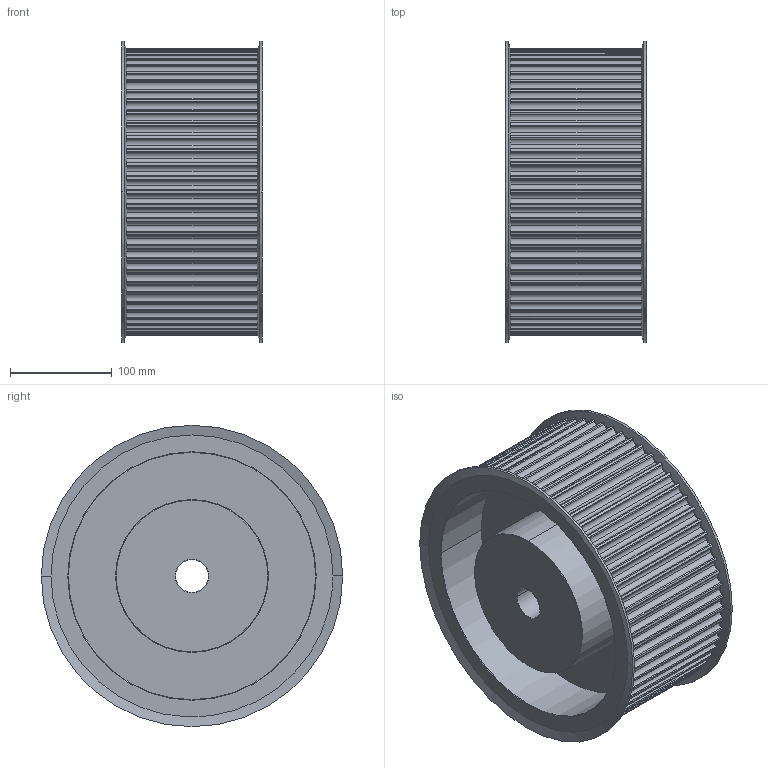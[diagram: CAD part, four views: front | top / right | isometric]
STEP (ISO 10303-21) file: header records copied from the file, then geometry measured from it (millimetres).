
FILE_DESCRIPTION(('STEP AP203'),'1');
FILE_NAME('64_-_14_m_115.stp','2022-04-21T16:44:18',('TraceParts'),('TraceParts S.A.'),'Spatial InterOp 3D',' ',' ');
FILE_SCHEMA(('CONFIG_CONTROL_DESIGN'));
Length unit declared in the file: millimetre
Products named in the file (1): 1
Bounding box: 138.09 x 296 x 296 mm (x, y, z)
Volume: 4717305.5 mm3; surface area: 461853.4 mm2
Topology: 1 solids, 1 shells, 488 faces, 1434 edges, 952 vertices
Faces by surface type: cylinder 334, plane 134, cone 20
Entity records: 20062 total; most frequent: CARTESIAN_POINT 7483, ORIENTED_EDGE 2868, DIRECTION 2468, EDGE_CURVE 1434, AXIS2_PLACEMENT_3D 1057, VERTEX_POINT 952, CIRCLE 568, B_SPLINE_CURVE_WITH_KNOTS 512
